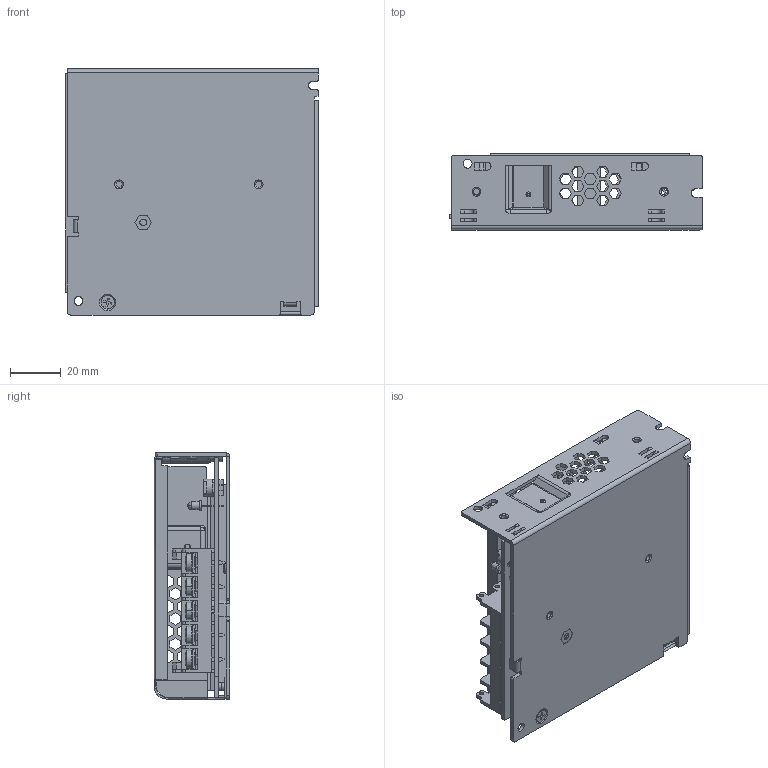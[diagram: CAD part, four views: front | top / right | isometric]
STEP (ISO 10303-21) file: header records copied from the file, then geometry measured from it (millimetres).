
FILE_DESCRIPTION (( 'STEP AP214' ), '1' );
FILE_NAME ('LBA75.STEP', '2025-12-17T08:57:36', ( '' ), ( '' ), 'SwSTEP 2.0', 'SolidWorks 2024', '' );
FILE_SCHEMA (( 'AUTOMOTIVE_DESIGN' ));
Length unit declared in the file: millimetre
Products named in the file (1): LBA75
Bounding box: 99.5 x 29.9 x 97 mm (x, y, z)
Volume: 45600.3 mm3; surface area: 76374 mm2
Topology: 24 solids, 24 shells, 2877 faces, 8107 edges, 5279 vertices
Faces by surface type: plane 2385, cylinder 322, bspline 89, torus 51, sphere 24, cone 6
Entity records: 95009 total; most frequent: CARTESIAN_POINT 19454, ORIENTED_EDGE 16208, DIRECTION 14201, EDGE_CURVE 8104, VECTOR 6867, LINE 6867, VERTEX_POINT 5278, AXIS2_PLACEMENT_3D 3667
